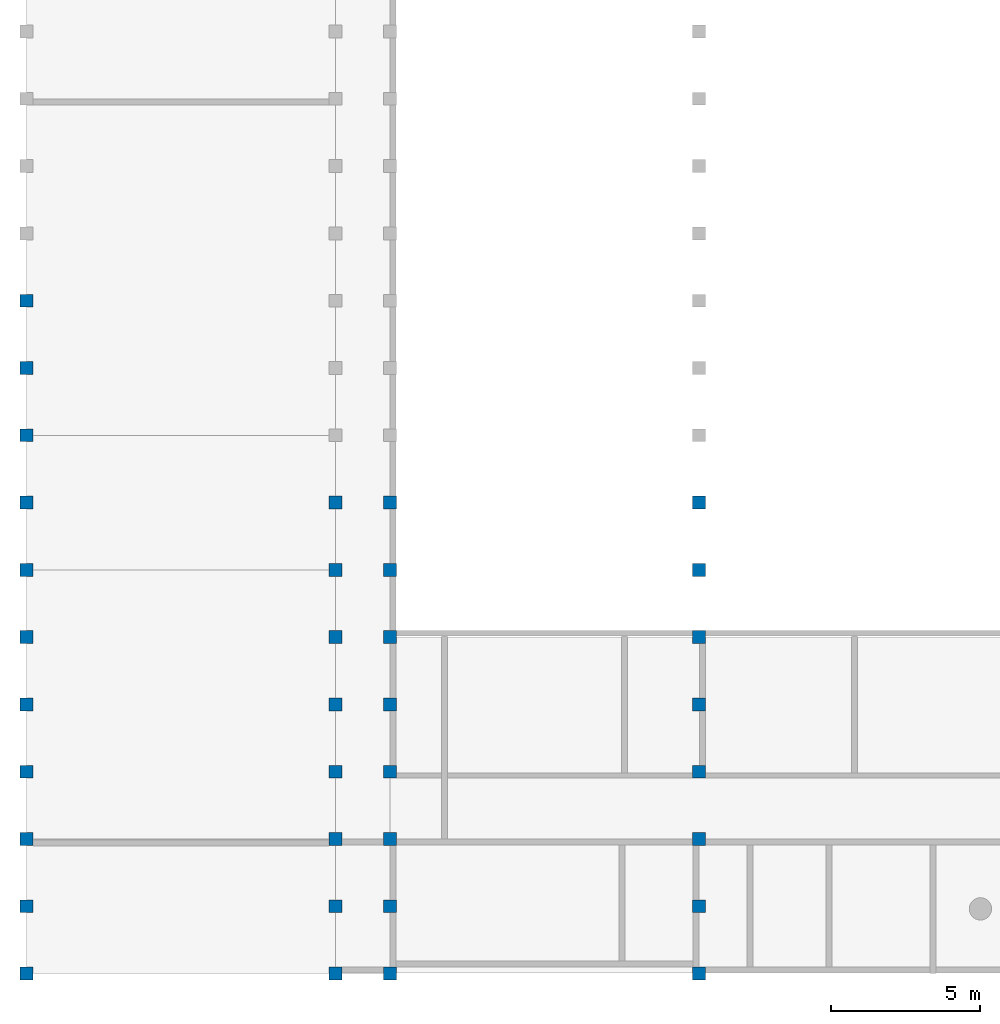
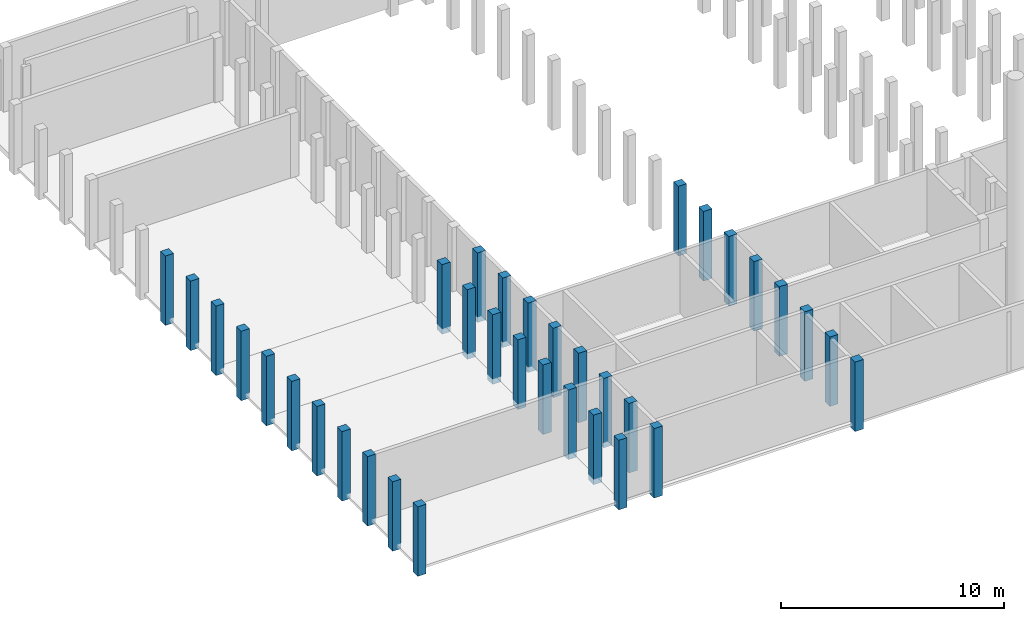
# One storey, part 1 of 9: 35 columns.
"""IFC2X3 building model written with IfcOpenShell, lengths in millimetres."""

from ifc_helpers import new_model, entity, si_unit, converted_unit, derived_unit, direction, frame, frame_2d, origin, origin_2d_with_axis, place, context, subcontext, project, spatial, rectangle, extrude, source, transform, mapped, material, type_object, type_shapes, element, save


model = new_model("IFC2X3")

# Units and contexts
model_context = context("Model", 3, precision=0.01, world=origin(), true_north=direction((6.12303176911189e-17, 1.0)))
body_context = subcontext(model_context, "Body", "Model", "MODEL_VIEW")
ifc_project = project(units=[si_unit("LENGTHUNIT", "METRE", prefix="MILLI"), si_unit("AREAUNIT", "SQUARE_METRE"), si_unit("VOLUMEUNIT", "CUBIC_METRE"), converted_unit("PLANEANGLEUNIT", "DEGREE", entity("IfcRatioMeasure", 0.0174532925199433), si_unit("PLANEANGLEUNIT", "RADIAN"), dimensions=[0, 0, 0, 0, 0, 0, 0]), si_unit("MASSUNIT", "GRAM", prefix="KILO"), derived_unit("MASSDENSITYUNIT", [(si_unit("MASSUNIT", "GRAM", prefix="KILO"), 1), (si_unit("LENGTHUNIT", "METRE"), -3)]), derived_unit("MOMENTOFINERTIAUNIT", [(si_unit("LENGTHUNIT", "METRE"), 4)]), si_unit("TIMEUNIT", "SECOND"), si_unit("FREQUENCYUNIT", "HERTZ"), si_unit("THERMODYNAMICTEMPERATUREUNIT", "DEGREE_CELSIUS"), derived_unit("THERMALTRANSMITTANCEUNIT", [(si_unit("MASSUNIT", "GRAM", prefix="KILO"), 1), (si_unit("THERMODYNAMICTEMPERATUREUNIT", "KELVIN"), -1), (si_unit("TIMEUNIT", "SECOND"), -3)]), derived_unit("VOLUMETRICFLOWRATEUNIT", [(si_unit("LENGTHUNIT", "METRE"), 3), (si_unit("TIMEUNIT", "SECOND"), -1)]), si_unit("ELECTRICCURRENTUNIT", "AMPERE"), si_unit("ELECTRICVOLTAGEUNIT", "VOLT"), si_unit("POWERUNIT", "WATT"), si_unit("FORCEUNIT", "NEWTON", prefix="KILO"), si_unit("ILLUMINANCEUNIT", "LUX"), si_unit("LUMINOUSFLUXUNIT", "LUMEN"), si_unit("LUMINOUSINTENSITYUNIT", "CANDELA"), derived_unit("USERDEFINED", [(si_unit("MASSUNIT", "GRAM", prefix="KILO"), -1), (si_unit("LENGTHUNIT", "METRE"), -2), (si_unit("TIMEUNIT", "SECOND"), 3), (si_unit("LUMINOUSFLUXUNIT", "LUMEN"), 1)]), derived_unit("LINEARVELOCITYUNIT", [(si_unit("LENGTHUNIT", "METRE"), 1), (si_unit("TIMEUNIT", "SECOND"), -1)]), si_unit("PRESSUREUNIT", "PASCAL"), derived_unit("USERDEFINED", [(si_unit("LENGTHUNIT", "METRE"), -2), (si_unit("MASSUNIT", "GRAM", prefix="KILO"), 1), (si_unit("TIMEUNIT", "SECOND"), -2)]), derived_unit("LINEARFORCEUNIT", [(si_unit("MASSUNIT", "GRAM", prefix="KILO"), 1), (si_unit("LENGTHUNIT", "METRE"), 1), (si_unit("TIMEUNIT", "SECOND"), -2), (si_unit("LENGTHUNIT", "METRE"), -1)]), derived_unit("PLANARFORCEUNIT", [(si_unit("MASSUNIT", "GRAM", prefix="KILO"), 1), (si_unit("LENGTHUNIT", "METRE"), 1), (si_unit("TIMEUNIT", "SECOND"), -2), (si_unit("LENGTHUNIT", "METRE"), -2)])], contexts=[model_context])

# Site, building, storey
site_placement = place(None, frame((10627.5135316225, 21939.0796949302, 0.0)))
site = spatial("IfcSite", under=ifc_project, at=site_placement, Name="Default", CompositionType="ELEMENT")
building_placement = place(site_placement, origin())
building = spatial("IfcBuilding", under=site, at=building_placement, CompositionType="ELEMENT")
storey_placement = place(building_placement, frame((0.0, 0.0, -3500.0)))
storey = spatial("IfcBuildingStorey", under=building, at=storey_placement, Name="R-1", CompositionType="ELEMENT", Elevation=-3500.0)

# Columns
ifc_material = material(Name="Concrete, Precast Smooth, Light Grey")
column_type_1 = type_object("IfcColumnType", Name="M_Precast-Square Column:430x430", PredefinedType="COLUMN", material=ifc_material)
shared_shape_1 = source(origin(), body_context, "Body", "SweptSolid", [
    extrude(rectangle(XDim=430.0, YDim=430.000000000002, at=frame_2d((-7.105427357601e-14, -1.08002495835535e-12), x_axis=(1.0, 0.0))), frame((-10627.5135316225, 660.920305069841, -3800.0), z_axis=(0.0, 0.0, 1.0), x_axis=(0.0, -1.0, 0.0)), (0.0, 0.0, 1.0), 3800.0),
])
type_shapes(column_type_1, [shared_shape_1])
column_1_placement = place(storey_placement, frame((0.0, 0.0, 3500.0)))
element("IfcColumn", 1, at=column_1_placement, inside=storey, type_object=column_type_1, material=ifc_material, Name="M_Precast-Square Column:430x430", ObjectType="M_Precast-Square Column:430x430", context=body_context, shape_type="MappedRepresentation", body=[
    mapped(shared_shape_1, transform((0.0, 0.0, 0.0), scale=1.0)),
])
column_type_2 = type_object("IfcColumnType", Name="M_Precast-Square Column:430x430", PredefinedType="COLUMN", material=ifc_material)
shared_shape_2 = source(origin(), body_context, "Body", "SweptSolid", [
    extrude(rectangle(XDim=430.0, YDim=430.000000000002, at=frame_2d((2.70006239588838e-13, -1.08002495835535e-12), x_axis=(1.0, 0.0))), frame((-10627.5135316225, -1599.07969493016, -3800.0), z_axis=(0.0, 0.0, 1.0), x_axis=(0.0, -1.0, 0.0)), (0.0, 0.0, 1.0), 3800.0),
])
type_shapes(column_type_2, [shared_shape_2])
column_2_placement = place(storey_placement, frame((0.0, 0.0, 3500.0)))
element("IfcColumn", 2, at=column_2_placement, inside=storey, type_object=column_type_2, material=ifc_material, Name="M_Precast-Square Column:430x430", ObjectType="M_Precast-Square Column:430x430", context=body_context, shape_type="MappedRepresentation", body=[
    mapped(shared_shape_2, transform((0.0, 0.0, 0.0), scale=1.0)),
])
column_type_3 = type_object("IfcColumnType", Name="M_Precast-Square Column:430x430", PredefinedType="COLUMN", material=ifc_material)
shared_shape_3 = source(origin(), body_context, "Body", "SweptSolid", [
    extrude(rectangle(XDim=430.0, YDim=430.000000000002, at=frame_2d((0.0, -1.08002495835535e-12), x_axis=(1.0, 0.0))), frame((-10627.5135316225, -3859.07969493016, -3800.0), z_axis=(0.0, 0.0, 1.0), x_axis=(0.0, -1.0, 0.0)), (0.0, 0.0, 1.0), 3800.0),
])
type_shapes(column_type_3, [shared_shape_3])
column_3_placement = place(storey_placement, frame((0.0, 0.0, 3500.0)))
element("IfcColumn", 3, at=column_3_placement, inside=storey, type_object=column_type_3, material=ifc_material, Name="M_Precast-Square Column:430x430", ObjectType="M_Precast-Square Column:430x430", context=body_context, shape_type="MappedRepresentation", body=[
    mapped(shared_shape_3, transform((0.0, 0.0, 0.0), scale=1.0)),
])
column_type_4 = type_object("IfcColumnType", Name="M_Precast-Square Column:430x430", PredefinedType="COLUMN", material=ifc_material)
shared_shape_4 = source(origin(), body_context, "Body", "SweptSolid", [
    extrude(rectangle(XDim=430.0, YDim=430.0, at=origin_2d_with_axis()), frame((-247.513531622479, -6119.07969493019, -3800.0), z_axis=(0.0, 0.0, 1.0), x_axis=(0.0, -1.0, 0.0)), (0.0, 0.0, 1.0), 3800.0),
])
type_shapes(column_type_4, [shared_shape_4])
column_4_placement = place(storey_placement, frame((0.0, 0.0, 3500.0)))
element("IfcColumn", 4, at=column_4_placement, inside=storey, type_object=column_type_4, material=ifc_material, Name="M_Precast-Square Column:430x430", ObjectType="M_Precast-Square Column:430x430", context=body_context, shape_type="MappedRepresentation", body=[
    mapped(shared_shape_4, transform((0.0, 0.0, 0.0), scale=1.0)),
])
column_type_5 = type_object("IfcColumnType", Name="M_Precast-Square Column:430x430", PredefinedType="COLUMN", material=ifc_material)
shared_shape_5 = source(origin(), body_context, "Body", "SweptSolid", [
    extrude(rectangle(XDim=430.0, YDim=429.999999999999, at=frame_2d((0.0, 2.8421709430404e-13), x_axis=(1.0, 0.0))), frame((1582.48646837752, -6119.0796949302, -3800.0), z_axis=(0.0, 0.0, 1.0), x_axis=(0.0, -1.0, 0.0)), (0.0, 0.0, 1.0), 3800.0),
])
type_shapes(column_type_5, [shared_shape_5])
column_5_placement = place(storey_placement, frame((0.0, 0.0, 3500.0)))
element("IfcColumn", 5, at=column_5_placement, inside=storey, type_object=column_type_5, material=ifc_material, Name="M_Precast-Square Column:430x430", ObjectType="M_Precast-Square Column:430x430", context=body_context, shape_type="MappedRepresentation", body=[
    mapped(shared_shape_5, transform((0.0, 0.0, 0.0), scale=1.0)),
])
column_type_6 = type_object("IfcColumnType", Name="M_Precast-Square Column:430x430", PredefinedType="COLUMN", material=ifc_material)
shared_shape_6 = source(origin(), body_context, "Body", "SweptSolid", [
    extrude(rectangle(XDim=430.0, YDim=430.000000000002, at=frame_2d((0.0, -1.08002495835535e-12), x_axis=(1.0, 0.0))), frame((-10627.5135316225, -6119.07969493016, -3800.0), z_axis=(0.0, 0.0, 1.0), x_axis=(0.0, -1.0, 0.0)), (0.0, 0.0, 1.0), 3800.0),
])
type_shapes(column_type_6, [shared_shape_6])
column_6_placement = place(storey_placement, frame((0.0, 0.0, 3500.0)))
element("IfcColumn", 6, at=column_6_placement, inside=storey, type_object=column_type_6, material=ifc_material, Name="M_Precast-Square Column:430x430", ObjectType="M_Precast-Square Column:430x430", context=body_context, shape_type="MappedRepresentation", body=[
    mapped(shared_shape_6, transform((0.0, 0.0, 0.0), scale=1.0)),
])
column_type_7 = type_object("IfcColumnType", Name="M_Precast-Square Column:430x430", PredefinedType="COLUMN", material=ifc_material)
shared_shape_7 = source(origin(), body_context, "Body", "SweptSolid", [
    extrude(rectangle(XDim=430.0, YDim=430.000000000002, at=frame_2d((0.0, -1.08002495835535e-12), x_axis=(1.0, 0.0))), frame((11962.4864683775, -6119.07969493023, -3800.0), z_axis=(0.0, 0.0, 1.0), x_axis=(0.0, -1.0, 0.0)), (0.0, 0.0, 1.0), 3800.0),
])
type_shapes(column_type_7, [shared_shape_7])
column_7_placement = place(storey_placement, frame((0.0, 0.0, 3500.0)))
element("IfcColumn", 7, at=column_7_placement, inside=storey, type_object=column_type_7, material=ifc_material, Name="M_Precast-Square Column:430x430", ObjectType="M_Precast-Square Column:430x430", context=body_context, shape_type="MappedRepresentation", body=[
    mapped(shared_shape_7, transform((0.0, 0.0, 0.0), scale=1.0)),
])
column_type_8 = type_object("IfcColumnType", Name="M_Precast-Square Column:430x430", PredefinedType="COLUMN", material=ifc_material)
shared_shape_8 = source(origin(), body_context, "Body", "SweptSolid", [
    extrude(rectangle(XDim=430.0, YDim=430.0, at=origin_2d_with_axis()), frame((-247.513531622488, -8379.07969493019, -3800.0), z_axis=(0.0, 0.0, 1.0), x_axis=(0.0, -1.0, 0.0)), (0.0, 0.0, 1.0), 3800.0),
])
type_shapes(column_type_8, [shared_shape_8])
column_8_placement = place(storey_placement, frame((0.0, 0.0, 3500.0)))
element("IfcColumn", 8, at=column_8_placement, inside=storey, type_object=column_type_8, material=ifc_material, Name="M_Precast-Square Column:430x430", ObjectType="M_Precast-Square Column:430x430", context=body_context, shape_type="MappedRepresentation", body=[
    mapped(shared_shape_8, transform((0.0, 0.0, 0.0), scale=1.0)),
])
column_type_9 = type_object("IfcColumnType", Name="M_Precast-Square Column:430x430", PredefinedType="COLUMN", material=ifc_material)
shared_shape_9 = source(origin(), body_context, "Body", "SweptSolid", [
    extrude(rectangle(XDim=430.0, YDim=429.999999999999, at=frame_2d((0.0, 2.8421709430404e-13), x_axis=(1.0, 0.0))), frame((1582.48646837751, -8379.0796949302, -3800.0), z_axis=(0.0, 0.0, 1.0), x_axis=(0.0, -1.0, 0.0)), (0.0, 0.0, 1.0), 3800.0),
])
type_shapes(column_type_9, [shared_shape_9])
column_9_placement = place(storey_placement, frame((0.0, 0.0, 3500.0)))
element("IfcColumn", 9, at=column_9_placement, inside=storey, type_object=column_type_9, material=ifc_material, Name="M_Precast-Square Column:430x430", ObjectType="M_Precast-Square Column:430x430", context=body_context, shape_type="MappedRepresentation", body=[
    mapped(shared_shape_9, transform((0.0, 0.0, 0.0), scale=1.0)),
])
column_type_10 = type_object("IfcColumnType", Name="M_Precast-Square Column:430x430", PredefinedType="COLUMN", material=ifc_material)
shared_shape_10 = source(origin(), body_context, "Body", "SweptSolid", [
    extrude(rectangle(XDim=430.0, YDim=430.000000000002, at=frame_2d((0.0, -1.08002495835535e-12), x_axis=(1.0, 0.0))), frame((-10627.5135316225, -8379.07969493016, -3800.0), z_axis=(0.0, 0.0, 1.0), x_axis=(0.0, -1.0, 0.0)), (0.0, 0.0, 1.0), 3800.0),
])
type_shapes(column_type_10, [shared_shape_10])
column_10_placement = place(storey_placement, frame((0.0, 0.0, 3500.0)))
element("IfcColumn", 10, at=column_10_placement, inside=storey, type_object=column_type_10, material=ifc_material, Name="M_Precast-Square Column:430x430", ObjectType="M_Precast-Square Column:430x430", context=body_context, shape_type="MappedRepresentation", body=[
    mapped(shared_shape_10, transform((0.0, 0.0, 0.0), scale=1.0)),
])
column_type_11 = type_object("IfcColumnType", Name="M_Precast-Square Column:430x430", PredefinedType="COLUMN", material=ifc_material)
shared_shape_11 = source(origin(), body_context, "Body", "SweptSolid", [
    extrude(rectangle(XDim=430.0, YDim=430.000000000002, at=frame_2d((0.0, -1.08002495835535e-12), x_axis=(1.0, 0.0))), frame((11962.4864683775, -8379.07969493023, -3800.0), z_axis=(0.0, 0.0, 1.0), x_axis=(0.0, -1.0, 0.0)), (0.0, 0.0, 1.0), 3800.0),
])
type_shapes(column_type_11, [shared_shape_11])
column_11_placement = place(storey_placement, frame((0.0, 0.0, 3500.0)))
element("IfcColumn", 11, at=column_11_placement, inside=storey, type_object=column_type_11, material=ifc_material, Name="M_Precast-Square Column:430x430", ObjectType="M_Precast-Square Column:430x430", context=body_context, shape_type="MappedRepresentation", body=[
    mapped(shared_shape_11, transform((0.0, 0.0, 0.0), scale=1.0)),
])
column_type_12 = type_object("IfcColumnType", Name="M_Precast-Square Column:430x430", PredefinedType="COLUMN", material=ifc_material)
shared_shape_12 = source(origin(), body_context, "Body", "SweptSolid", [
    extrude(rectangle(XDim=430.0, YDim=430.0, at=frame_2d((2.1600499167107e-12, 0.0), x_axis=(1.0, 0.0))), frame((-247.513531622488, -10639.0796949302, -3800.0), z_axis=(0.0, 0.0, 1.0), x_axis=(0.0, -1.0, 0.0)), (0.0, 0.0, 1.0), 3800.0),
])
type_shapes(column_type_12, [shared_shape_12])
column_12_placement = place(storey_placement, frame((0.0, 0.0, 3500.0)))
element("IfcColumn", 12, at=column_12_placement, inside=storey, type_object=column_type_12, material=ifc_material, Name="M_Precast-Square Column:430x430", ObjectType="M_Precast-Square Column:430x430", context=body_context, shape_type="MappedRepresentation", body=[
    mapped(shared_shape_12, transform((0.0, 0.0, 0.0), scale=1.0)),
])
column_type_13 = type_object("IfcColumnType", Name="M_Precast-Square Column:430x430", PredefinedType="COLUMN", material=ifc_material)
shared_shape_13 = source(origin(), body_context, "Body", "SweptSolid", [
    extrude(rectangle(XDim=430.0, YDim=429.999999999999, at=frame_2d((0.0, 2.8421709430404e-13), x_axis=(1.0, 0.0))), frame((1582.48646837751, -10639.0796949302, -3800.0), z_axis=(0.0, 0.0, 1.0), x_axis=(0.0, -1.0, 0.0)), (0.0, 0.0, 1.0), 3800.0),
])
type_shapes(column_type_13, [shared_shape_13])
column_13_placement = place(storey_placement, frame((0.0, 0.0, 3500.0)))
element("IfcColumn", 13, at=column_13_placement, inside=storey, type_object=column_type_13, material=ifc_material, Name="M_Precast-Square Column:430x430", ObjectType="M_Precast-Square Column:430x430", context=body_context, shape_type="MappedRepresentation", body=[
    mapped(shared_shape_13, transform((0.0, 0.0, 0.0), scale=1.0)),
])
column_type_14 = type_object("IfcColumnType", Name="M_Precast-Square Column:430x430", PredefinedType="COLUMN", material=ifc_material)
shared_shape_14 = source(origin(), body_context, "Body", "SweptSolid", [
    extrude(rectangle(XDim=430.0, YDim=430.000000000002, at=frame_2d((0.0, -1.08002495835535e-12), x_axis=(1.0, 0.0))), frame((-10627.5135316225, -10639.0796949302, -3800.0), z_axis=(0.0, 0.0, 1.0), x_axis=(0.0, -1.0, 0.0)), (0.0, 0.0, 1.0), 3800.0),
])
type_shapes(column_type_14, [shared_shape_14])
column_14_placement = place(storey_placement, frame((0.0, 0.0, 3500.0)))
element("IfcColumn", 14, at=column_14_placement, inside=storey, type_object=column_type_14, material=ifc_material, Name="M_Precast-Square Column:430x430", ObjectType="M_Precast-Square Column:430x430", context=body_context, shape_type="MappedRepresentation", body=[
    mapped(shared_shape_14, transform((0.0, 0.0, 0.0), scale=1.0)),
])
column_type_15 = type_object("IfcColumnType", Name="M_Precast-Square Column:430x430", PredefinedType="COLUMN", material=ifc_material)
shared_shape_15 = source(origin(), body_context, "Body", "SweptSolid", [
    extrude(rectangle(XDim=430.0, YDim=430.000000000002, at=frame_2d((0.0, -1.08002495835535e-12), x_axis=(1.0, 0.0))), frame((11962.4864683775, -10639.0796949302, -3800.0), z_axis=(0.0, 0.0, 1.0), x_axis=(0.0, -1.0, 0.0)), (0.0, 0.0, 1.0), 3800.0),
])
type_shapes(column_type_15, [shared_shape_15])
column_15_placement = place(storey_placement, frame((0.0, 0.0, 3500.0)))
element("IfcColumn", 15, at=column_15_placement, inside=storey, type_object=column_type_15, material=ifc_material, Name="M_Precast-Square Column:430x430", ObjectType="M_Precast-Square Column:430x430", context=body_context, shape_type="MappedRepresentation", body=[
    mapped(shared_shape_15, transform((0.0, 0.0, 0.0), scale=1.0)),
])
column_type_16 = type_object("IfcColumnType", Name="M_Precast-Square Column:430x430", PredefinedType="COLUMN", material=ifc_material)
shared_shape_16 = source(origin(), body_context, "Body", "SweptSolid", [
    extrude(rectangle(XDim=430.0, YDim=430.0, at=frame_2d((2.1600499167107e-12, 0.0), x_axis=(1.0, 0.0))), frame((-247.513531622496, -12899.0796949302, -3800.0), z_axis=(0.0, 0.0, 1.0), x_axis=(0.0, -1.0, 0.0)), (0.0, 0.0, 1.0), 3800.0),
])
type_shapes(column_type_16, [shared_shape_16])
column_16_placement = place(storey_placement, frame((0.0, 0.0, 3500.0)))
element("IfcColumn", 16, at=column_16_placement, inside=storey, type_object=column_type_16, material=ifc_material, Name="M_Precast-Square Column:430x430", ObjectType="M_Precast-Square Column:430x430", context=body_context, shape_type="MappedRepresentation", body=[
    mapped(shared_shape_16, transform((0.0, 0.0, 0.0), scale=1.0)),
])
column_type_17 = type_object("IfcColumnType", Name="M_Precast-Square Column:430x430", PredefinedType="COLUMN", material=ifc_material)
shared_shape_17 = source(origin(), body_context, "Body", "SweptSolid", [
    extrude(rectangle(XDim=430.0, YDim=429.999999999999, at=frame_2d((0.0, 2.8421709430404e-13), x_axis=(1.0, 0.0))), frame((1582.4864683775, -12899.0796949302, -3800.0), z_axis=(0.0, 0.0, 1.0), x_axis=(0.0, -1.0, 0.0)), (0.0, 0.0, 1.0), 3800.0),
])
type_shapes(column_type_17, [shared_shape_17])
column_17_placement = place(storey_placement, frame((0.0, 0.0, 3500.0)))
element("IfcColumn", 17, at=column_17_placement, inside=storey, type_object=column_type_17, material=ifc_material, Name="M_Precast-Square Column:430x430", ObjectType="M_Precast-Square Column:430x430", context=body_context, shape_type="MappedRepresentation", body=[
    mapped(shared_shape_17, transform((0.0, 0.0, 0.0), scale=1.0)),
])
column_type_18 = type_object("IfcColumnType", Name="M_Precast-Square Column:430x430", PredefinedType="COLUMN", material=ifc_material)
shared_shape_18 = source(origin(), body_context, "Body", "SweptSolid", [
    extrude(rectangle(XDim=430.0, YDim=430.000000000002, at=frame_2d((0.0, -1.08002495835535e-12), x_axis=(1.0, 0.0))), frame((-10627.5135316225, -12899.0796949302, -3800.0), z_axis=(0.0, 0.0, 1.0), x_axis=(0.0, -1.0, 0.0)), (0.0, 0.0, 1.0), 3800.0),
])
type_shapes(column_type_18, [shared_shape_18])
column_18_placement = place(storey_placement, frame((0.0, 0.0, 3500.0)))
element("IfcColumn", 18, at=column_18_placement, inside=storey, type_object=column_type_18, material=ifc_material, Name="M_Precast-Square Column:430x430", ObjectType="M_Precast-Square Column:430x430", context=body_context, shape_type="MappedRepresentation", body=[
    mapped(shared_shape_18, transform((0.0, 0.0, 0.0), scale=1.0)),
])
column_type_19 = type_object("IfcColumnType", Name="M_Precast-Square Column:430x430", PredefinedType="COLUMN", material=ifc_material)
shared_shape_19 = source(origin(), body_context, "Body", "SweptSolid", [
    extrude(rectangle(XDim=430.0, YDim=430.000000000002, at=frame_2d((0.0, -1.08002495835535e-12), x_axis=(1.0, 0.0))), frame((11962.4864683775, -12899.0796949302, -3800.0), z_axis=(0.0, 0.0, 1.0), x_axis=(0.0, -1.0, 0.0)), (0.0, 0.0, 1.0), 3800.0),
])
type_shapes(column_type_19, [shared_shape_19])
column_19_placement = place(storey_placement, frame((0.0, 0.0, 3500.0)))
element("IfcColumn", 19, at=column_19_placement, inside=storey, type_object=column_type_19, material=ifc_material, Name="M_Precast-Square Column:430x430", ObjectType="M_Precast-Square Column:430x430", context=body_context, shape_type="MappedRepresentation", body=[
    mapped(shared_shape_19, transform((0.0, 0.0, 0.0), scale=1.0)),
])
column_type_20 = type_object("IfcColumnType", Name="M_Precast-Square Column:430x430", PredefinedType="COLUMN", material=ifc_material)
shared_shape_20 = source(origin(), body_context, "Body", "SweptSolid", [
    extrude(rectangle(XDim=430.0, YDim=430.0, at=frame_2d((2.1600499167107e-12, 0.0), x_axis=(1.0, 0.0))), frame((-247.513531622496, -15159.0796949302, -3800.0), z_axis=(0.0, 0.0, 1.0), x_axis=(0.0, -1.0, 0.0)), (0.0, 0.0, 1.0), 3800.0),
])
type_shapes(column_type_20, [shared_shape_20])
column_20_placement = place(storey_placement, frame((0.0, 0.0, 3500.0)))
element("IfcColumn", 20, at=column_20_placement, inside=storey, type_object=column_type_20, material=ifc_material, Name="M_Precast-Square Column:430x430", ObjectType="M_Precast-Square Column:430x430", context=body_context, shape_type="MappedRepresentation", body=[
    mapped(shared_shape_20, transform((0.0, 0.0, 0.0), scale=1.0)),
])
column_type_21 = type_object("IfcColumnType", Name="M_Precast-Square Column:430x430", PredefinedType="COLUMN", material=ifc_material)
shared_shape_21 = source(origin(), body_context, "Body", "SweptSolid", [
    extrude(rectangle(XDim=430.0, YDim=429.999999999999, at=frame_2d((0.0, 2.8421709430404e-13), x_axis=(1.0, 0.0))), frame((1582.4864683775, -15159.0796949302, -3800.0), z_axis=(0.0, 0.0, 1.0), x_axis=(0.0, -1.0, 0.0)), (0.0, 0.0, 1.0), 3800.0),
])
type_shapes(column_type_21, [shared_shape_21])
column_21_placement = place(storey_placement, frame((0.0, 0.0, 3500.0)))
element("IfcColumn", 21, at=column_21_placement, inside=storey, type_object=column_type_21, material=ifc_material, Name="M_Precast-Square Column:430x430", ObjectType="M_Precast-Square Column:430x430", context=body_context, shape_type="MappedRepresentation", body=[
    mapped(shared_shape_21, transform((0.0, 0.0, 0.0), scale=1.0)),
])
column_type_22 = type_object("IfcColumnType", Name="M_Precast-Square Column:430x430", PredefinedType="COLUMN", material=ifc_material)
shared_shape_22 = source(origin(), body_context, "Body", "SweptSolid", [
    extrude(rectangle(XDim=430.0, YDim=430.000000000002, at=frame_2d((2.1600499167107e-12, -1.08002495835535e-12), x_axis=(1.0, 0.0))), frame((-10627.5135316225, -15159.0796949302, -3800.0), z_axis=(0.0, 0.0, 1.0), x_axis=(0.0, -1.0, 0.0)), (0.0, 0.0, 1.0), 3800.0),
])
type_shapes(column_type_22, [shared_shape_22])
column_22_placement = place(storey_placement, frame((0.0, 0.0, 3500.0)))
element("IfcColumn", 22, at=column_22_placement, inside=storey, type_object=column_type_22, material=ifc_material, Name="M_Precast-Square Column:430x430", ObjectType="M_Precast-Square Column:430x430", context=body_context, shape_type="MappedRepresentation", body=[
    mapped(shared_shape_22, transform((0.0, 0.0, 0.0), scale=1.0)),
])
column_type_23 = type_object("IfcColumnType", Name="M_Precast-Square Column:430x430", PredefinedType="COLUMN", material=ifc_material)
shared_shape_23 = source(origin(), body_context, "Body", "SweptSolid", [
    extrude(rectangle(XDim=430.0, YDim=430.000000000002, at=frame_2d((0.0, -1.08002495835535e-12), x_axis=(1.0, 0.0))), frame((11962.4864683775, -15159.0796949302, -3800.0), z_axis=(0.0, 0.0, 1.0), x_axis=(0.0, -1.0, 0.0)), (0.0, 0.0, 1.0), 3800.0),
])
type_shapes(column_type_23, [shared_shape_23])
column_23_placement = place(storey_placement, frame((0.0, 0.0, 3500.0)))
element("IfcColumn", 23, at=column_23_placement, inside=storey, type_object=column_type_23, material=ifc_material, Name="M_Precast-Square Column:430x430", ObjectType="M_Precast-Square Column:430x430", context=body_context, shape_type="MappedRepresentation", body=[
    mapped(shared_shape_23, transform((0.0, 0.0, 0.0), scale=1.0)),
])
column_type_24 = type_object("IfcColumnType", Name="M_Precast-Square Column:430x430", PredefinedType="COLUMN", material=ifc_material)
shared_shape_24 = source(origin(), body_context, "Body", "SweptSolid", [
    extrude(rectangle(XDim=430.0, YDim=430.0, at=frame_2d((2.1600499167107e-12, 0.0), x_axis=(1.0, 0.0))), frame((-247.513531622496, -17419.0796949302, -3800.0), z_axis=(0.0, 0.0, 1.0), x_axis=(0.0, -1.0, 0.0)), (0.0, 0.0, 1.0), 3800.0),
])
type_shapes(column_type_24, [shared_shape_24])
column_24_placement = place(storey_placement, frame((0.0, 0.0, 3500.0)))
element("IfcColumn", 24, at=column_24_placement, inside=storey, type_object=column_type_24, material=ifc_material, Name="M_Precast-Square Column:430x430", ObjectType="M_Precast-Square Column:430x430", context=body_context, shape_type="MappedRepresentation", body=[
    mapped(shared_shape_24, transform((0.0, 0.0, 0.0), scale=1.0)),
])
column_type_25 = type_object("IfcColumnType", Name="M_Precast-Square Column:430x430", PredefinedType="COLUMN", material=ifc_material)
shared_shape_25 = source(origin(), body_context, "Body", "SweptSolid", [
    extrude(rectangle(XDim=430.0, YDim=429.999999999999, at=frame_2d((2.1600499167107e-12, 2.8421709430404e-13), x_axis=(1.0, 0.0))), frame((1582.4864683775, -17419.0796949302, -3800.0), z_axis=(0.0, 0.0, 1.0), x_axis=(0.0, -1.0, 0.0)), (0.0, 0.0, 1.0), 3800.0),
])
type_shapes(column_type_25, [shared_shape_25])
column_25_placement = place(storey_placement, frame((0.0, 0.0, 3500.0)))
element("IfcColumn", 25, at=column_25_placement, inside=storey, type_object=column_type_25, material=ifc_material, Name="M_Precast-Square Column:430x430", ObjectType="M_Precast-Square Column:430x430", context=body_context, shape_type="MappedRepresentation", body=[
    mapped(shared_shape_25, transform((0.0, 0.0, 0.0), scale=1.0)),
])
column_type_26 = type_object("IfcColumnType", Name="M_Precast-Square Column:430x430", PredefinedType="COLUMN", material=ifc_material)
shared_shape_26 = source(origin(), body_context, "Body", "SweptSolid", [
    extrude(rectangle(XDim=430.0, YDim=430.000000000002, at=frame_2d((0.0, -1.08002495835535e-12), x_axis=(1.0, 0.0))), frame((-10627.5135316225, -17419.0796949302, -3800.0), z_axis=(0.0, 0.0, 1.0), x_axis=(0.0, -1.0, 0.0)), (0.0, 0.0, 1.0), 3800.0),
])
type_shapes(column_type_26, [shared_shape_26])
column_26_placement = place(storey_placement, frame((0.0, 0.0, 3500.0)))
element("IfcColumn", 26, at=column_26_placement, inside=storey, type_object=column_type_26, material=ifc_material, Name="M_Precast-Square Column:430x430", ObjectType="M_Precast-Square Column:430x430", context=body_context, shape_type="MappedRepresentation", body=[
    mapped(shared_shape_26, transform((0.0, 0.0, 0.0), scale=1.0)),
])
column_type_27 = type_object("IfcColumnType", Name="M_Precast-Square Column:430x430", PredefinedType="COLUMN", material=ifc_material)
shared_shape_27 = source(origin(), body_context, "Body", "SweptSolid", [
    extrude(rectangle(XDim=430.0, YDim=430.000000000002, at=frame_2d((2.1600499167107e-12, -1.08002495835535e-12), x_axis=(1.0, 0.0))), frame((11962.4864683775, -17419.0796949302, -3800.0), z_axis=(0.0, 0.0, 1.0), x_axis=(0.0, -1.0, 0.0)), (0.0, 0.0, 1.0), 3800.0),
])
type_shapes(column_type_27, [shared_shape_27])
column_27_placement = place(storey_placement, frame((0.0, 0.0, 3500.0)))
element("IfcColumn", 27, at=column_27_placement, inside=storey, type_object=column_type_27, material=ifc_material, Name="M_Precast-Square Column:430x430", ObjectType="M_Precast-Square Column:430x430", context=body_context, shape_type="MappedRepresentation", body=[
    mapped(shared_shape_27, transform((0.0, 0.0, 0.0), scale=1.0)),
])
column_type_28 = type_object("IfcColumnType", Name="M_Precast-Square Column:430x430", PredefinedType="COLUMN", material=ifc_material)
shared_shape_28 = source(origin(), body_context, "Body", "SweptSolid", [
    extrude(rectangle(XDim=430.0, YDim=430.0, at=frame_2d((-1.08002495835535e-12, 0.0), x_axis=(1.0, 0.0))), frame((-247.513531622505, -19679.0796949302, -3800.0), z_axis=(0.0, 0.0, 1.0), x_axis=(0.0, -1.0, 0.0)), (0.0, 0.0, 1.0), 3800.0),
])
type_shapes(column_type_28, [shared_shape_28])
column_28_placement = place(storey_placement, frame((0.0, 0.0, 3500.0)))
element("IfcColumn", 28, at=column_28_placement, inside=storey, type_object=column_type_28, material=ifc_material, Name="M_Precast-Square Column:430x430", ObjectType="M_Precast-Square Column:430x430", context=body_context, shape_type="MappedRepresentation", body=[
    mapped(shared_shape_28, transform((0.0, 0.0, 0.0), scale=1.0)),
])
column_type_29 = type_object("IfcColumnType", Name="M_Precast-Square Column:430x430", PredefinedType="COLUMN", material=ifc_material)
shared_shape_29 = source(origin(), body_context, "Body", "SweptSolid", [
    extrude(rectangle(XDim=430.0, YDim=429.999999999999, at=frame_2d((-1.08002495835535e-12, 2.8421709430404e-13), x_axis=(1.0, 0.0))), frame((1582.48646837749, -19679.0796949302, -3800.0), z_axis=(0.0, 0.0, 1.0), x_axis=(0.0, -1.0, 0.0)), (0.0, 0.0, 1.0), 3800.0),
])
type_shapes(column_type_29, [shared_shape_29])
column_29_placement = place(storey_placement, frame((0.0, 0.0, 3500.0)))
element("IfcColumn", 29, at=column_29_placement, inside=storey, type_object=column_type_29, material=ifc_material, Name="M_Precast-Square Column:430x430", ObjectType="M_Precast-Square Column:430x430", context=body_context, shape_type="MappedRepresentation", body=[
    mapped(shared_shape_29, transform((0.0, 0.0, 0.0), scale=1.0)),
])
column_type_30 = type_object("IfcColumnType", Name="M_Precast-Square Column:430x430", PredefinedType="COLUMN", material=ifc_material)
shared_shape_30 = source(origin(), body_context, "Body", "SweptSolid", [
    extrude(rectangle(XDim=430.0, YDim=430.000000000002, at=frame_2d((-1.08002495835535e-12, -1.08002495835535e-12), x_axis=(1.0, 0.0))), frame((-10627.5135316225, -19679.0796949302, -3800.0), z_axis=(0.0, 0.0, 1.0), x_axis=(0.0, -1.0, 0.0)), (0.0, 0.0, 1.0), 3800.0),
])
type_shapes(column_type_30, [shared_shape_30])
column_30_placement = place(storey_placement, frame((0.0, 0.0, 3500.0)))
element("IfcColumn", 30, at=column_30_placement, inside=storey, type_object=column_type_30, material=ifc_material, Name="M_Precast-Square Column:430x430", ObjectType="M_Precast-Square Column:430x430", context=body_context, shape_type="MappedRepresentation", body=[
    mapped(shared_shape_30, transform((0.0, 0.0, 0.0), scale=1.0)),
])
column_type_31 = type_object("IfcColumnType", Name="M_Precast-Square Column:430x430", PredefinedType="COLUMN", material=ifc_material)
shared_shape_31 = source(origin(), body_context, "Body", "SweptSolid", [
    extrude(rectangle(XDim=430.0, YDim=430.000000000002, at=frame_2d((-1.08002495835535e-12, -1.08002495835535e-12), x_axis=(1.0, 0.0))), frame((11962.4864683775, -19679.0796949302, -3800.0), z_axis=(0.0, 0.0, 1.0), x_axis=(0.0, -1.0, 0.0)), (0.0, 0.0, 1.0), 3800.0),
])
type_shapes(column_type_31, [shared_shape_31])
column_31_placement = place(storey_placement, frame((0.0, 0.0, 3500.0)))
element("IfcColumn", 31, at=column_31_placement, inside=storey, type_object=column_type_31, material=ifc_material, Name="M_Precast-Square Column:430x430", ObjectType="M_Precast-Square Column:430x430", context=body_context, shape_type="MappedRepresentation", body=[
    mapped(shared_shape_31, transform((0.0, 0.0, 0.0), scale=1.0)),
])
column_type_32 = type_object("IfcColumnType", Name="M_Precast-Square Column:430x430", PredefinedType="COLUMN", material=ifc_material)
shared_shape_32 = source(origin(), body_context, "Body", "SweptSolid", [
    extrude(rectangle(XDim=430.000000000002, YDim=430.0, at=origin_2d_with_axis()), frame((-247.513531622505, -21939.0796949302, -3800.0), z_axis=(0.0, 0.0, 1.0), x_axis=(0.0, -1.0, 0.0)), (0.0, 0.0, 1.0), 3800.0),
])
type_shapes(column_type_32, [shared_shape_32])
column_32_placement = place(storey_placement, frame((0.0, 0.0, 3500.0)))
element("IfcColumn", 32, at=column_32_placement, inside=storey, type_object=column_type_32, material=ifc_material, Name="M_Precast-Square Column:430x430", ObjectType="M_Precast-Square Column:430x430", context=body_context, shape_type="MappedRepresentation", body=[
    mapped(shared_shape_32, transform((0.0, 0.0, 0.0), scale=1.0)),
])
column_type_33 = type_object("IfcColumnType", Name="M_Precast-Square Column:430x430", PredefinedType="COLUMN", material=ifc_material)
shared_shape_33 = source(origin(), body_context, "Body", "SweptSolid", [
    extrude(rectangle(XDim=430.000000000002, YDim=429.999999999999, at=frame_2d((0.0, 2.8421709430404e-13), x_axis=(1.0, 0.0))), frame((1582.48646837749, -21939.0796949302, -3800.0), z_axis=(0.0, 0.0, 1.0), x_axis=(0.0, -1.0, 0.0)), (0.0, 0.0, 1.0), 3800.0),
])
type_shapes(column_type_33, [shared_shape_33])
column_33_placement = place(storey_placement, frame((0.0, 0.0, 3500.0)))
element("IfcColumn", 33, at=column_33_placement, inside=storey, type_object=column_type_33, material=ifc_material, Name="M_Precast-Square Column:430x430", ObjectType="M_Precast-Square Column:430x430", context=body_context, shape_type="MappedRepresentation", body=[
    mapped(shared_shape_33, transform((0.0, 0.0, 0.0), scale=1.0)),
])
column_type_34 = type_object("IfcColumnType", Name="M_Precast-Square Column:430x430", PredefinedType="COLUMN", material=ifc_material)
shared_shape_34 = source(origin(), body_context, "Body", "SweptSolid", [
    extrude(rectangle(XDim=430.000000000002, YDim=430.000000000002, at=frame_2d((0.0, -1.08002495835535e-12), x_axis=(1.0, 0.0))), frame((-10627.5135316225, -21939.0796949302, -3800.0), z_axis=(0.0, 0.0, 1.0), x_axis=(0.0, -1.0, 0.0)), (0.0, 0.0, 1.0), 3800.0),
])
type_shapes(column_type_34, [shared_shape_34])
column_34_placement = place(storey_placement, frame((0.0, 0.0, 3500.0)))
element("IfcColumn", 34, at=column_34_placement, inside=storey, type_object=column_type_34, material=ifc_material, Name="M_Precast-Square Column:430x430", ObjectType="M_Precast-Square Column:430x430", context=body_context, shape_type="MappedRepresentation", body=[
    mapped(shared_shape_34, transform((0.0, 0.0, 0.0), scale=1.0)),
])
column_type_35 = type_object("IfcColumnType", Name="M_Precast-Square Column:430x430", PredefinedType="COLUMN", material=ifc_material)
shared_shape_35 = source(origin(), body_context, "Body", "SweptSolid", [
    extrude(rectangle(XDim=430.000000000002, YDim=430.000000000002, at=frame_2d((0.0, -1.08002495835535e-12), x_axis=(1.0, 0.0))), frame((11962.4864683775, -21939.0796949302, -3800.0), z_axis=(0.0, 0.0, 1.0), x_axis=(0.0, -1.0, 0.0)), (0.0, 0.0, 1.0), 3800.0),
])
type_shapes(column_type_35, [shared_shape_35])
column_35_placement = place(storey_placement, frame((0.0, 0.0, 3500.0)))
element("IfcColumn", 35, at=column_35_placement, inside=storey, type_object=column_type_35, material=ifc_material, Name="M_Precast-Square Column:430x430", ObjectType="M_Precast-Square Column:430x430", context=body_context, shape_type="MappedRepresentation", body=[
    mapped(shared_shape_35, transform((0.0, 0.0, 0.0), scale=1.0)),
])

save(model, "model.ifc")
